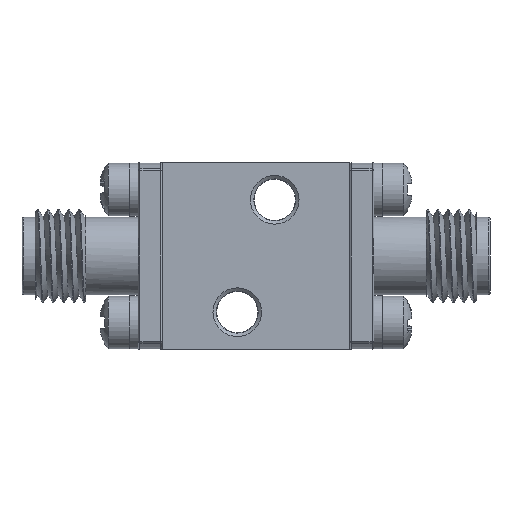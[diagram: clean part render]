
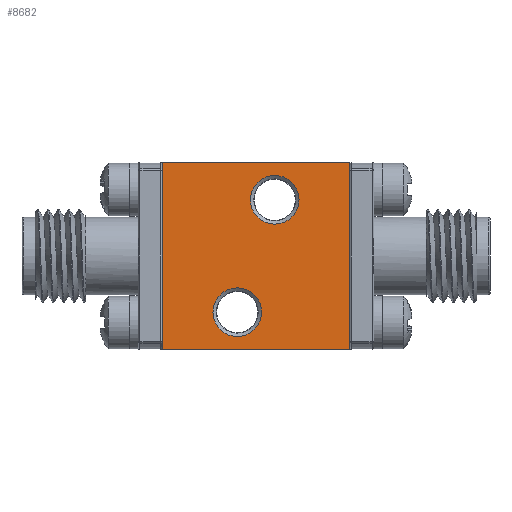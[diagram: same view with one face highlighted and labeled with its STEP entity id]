
A CAD part, front view. The second image highlights one B-rep face of the part: STEP entity #8682.
In plain terms, the highlighted planar face has unit normal (0, -1, 0).
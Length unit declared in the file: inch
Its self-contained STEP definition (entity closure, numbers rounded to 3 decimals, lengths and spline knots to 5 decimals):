
#205 = CIRCLE ( 'NONE', #19600, 0.065 ) ;
#220 = CARTESIAN_POINT ( 'NONE',  ( 0.2, 0., -0.4 ) ) ;
#575 = LINE ( 'NONE', #11801, #36376 ) ;
#802 = CARTESIAN_POINT ( 'NONE',  ( 0.2, 0., -0.335 ) ) ;
#996 = LINE ( 'NONE', #4113, #13548 ) ;
#1357 = FACE_BOUND ( 'NONE', #6100, .T. ) ;
#1361 = CIRCLE ( 'NONE', #2540, 0.065 ) ;
#1362 = LINE ( 'NONE', #9446, #14243 ) ;
#2540 = AXIS2_PLACEMENT_3D ( 'NONE', #24207, #15564, #4125 ) ;
#2912 = CARTESIAN_POINT ( 'NONE',  ( 0., 0., 0. ) ) ;
#4113 = CARTESIAN_POINT ( 'NONE',  ( 0.5, 0., 0. ) ) ;
#4125 = DIRECTION ( 'NONE',  ( 0., 0., 1. ) ) ;
#4752 = ORIENTED_EDGE ( 'NONE', *, *, #20915, .F. ) ;
#6100 = EDGE_LOOP ( 'NONE', ( #15503 ) ) ;
#7159 = EDGE_LOOP ( 'NONE', ( #18719 ) ) ;
#8593 = EDGE_CURVE ( 'NONE', #27915, #34282, #996, .T. ) ;
#8682 = ADVANCED_FACE ( 'NONE', ( #1357, #35065, #9828 ), #21069, .T. ) ;
#9446 = CARTESIAN_POINT ( 'NONE',  ( 0., 0., 0. ) ) ;
#9828 = FACE_OUTER_BOUND ( 'NONE', #15150, .T. ) ;
#11197 = ORIENTED_EDGE ( 'NONE', *, *, #26148, .F. ) ;
#11801 = CARTESIAN_POINT ( 'NONE',  ( 0., 0., 0. ) ) ;
#12097 = ORIENTED_EDGE ( 'NONE', *, *, #8593, .F. ) ;
#12162 = DIRECTION ( 'NONE',  ( 1., 0., 0. ) ) ;
#12410 = DIRECTION ( 'NONE',  ( 0., 0., -1. ) ) ;
#13485 = DIRECTION ( 'NONE',  ( 0., 1., 0. ) ) ;
#13548 = VECTOR ( 'NONE', #12410, 39.37008 ) ;
#13876 = CARTESIAN_POINT ( 'NONE',  ( 0.3, 0., -0.035 ) ) ;
#14243 = VECTOR ( 'NONE', #29167, 39.37008 ) ;
#15150 = EDGE_LOOP ( 'NONE', ( #20797, #11197, #12097, #4752 ) ) ;
#15503 = ORIENTED_EDGE ( 'NONE', *, *, #35453, .T. ) ;
#15564 = DIRECTION ( 'NONE',  ( 0., 1., 0. ) ) ;
#15915 = CARTESIAN_POINT ( 'NONE',  ( 0., 0., -0.5 ) ) ;
#16683 = EDGE_CURVE ( 'NONE', #19693, #21914, #1362, .T. ) ;
#17204 = CARTESIAN_POINT ( 'NONE',  ( 0., 0., -0.5 ) ) ;
#18719 = ORIENTED_EDGE ( 'NONE', *, *, #26133, .T. ) ;
#19600 = AXIS2_PLACEMENT_3D ( 'NONE', #220, #13485, #36145 ) ;
#19693 = VERTEX_POINT ( 'NONE', #17204 ) ;
#20797 = ORIENTED_EDGE ( 'NONE', *, *, #16683, .F. ) ;
#20915 = EDGE_CURVE ( 'NONE', #21914, #27915, #575, .T. ) ;
#21069 = PLANE ( 'NONE',  #34218 ) ;
#21454 = DIRECTION ( 'NONE',  ( -1., 0., 0. ) ) ;
#21914 = VERTEX_POINT ( 'NONE', #35197 ) ;
#21970 = VECTOR ( 'NONE', #21454, 39.37008 ) ;
#24207 = CARTESIAN_POINT ( 'NONE',  ( 0.3, 0., -0.1 ) ) ;
#24965 = CARTESIAN_POINT ( 'NONE',  ( 0.5, 0., 0. ) ) ;
#26133 = EDGE_CURVE ( 'NONE', #27881, #27881, #1361, .T. ) ;
#26148 = EDGE_CURVE ( 'NONE', #34282, #19693, #27118, .T. ) ;
#26445 = CARTESIAN_POINT ( 'NONE',  ( 0.5, 0., -0.5 ) ) ;
#26727 = VERTEX_POINT ( 'NONE', #802 ) ;
#27118 = LINE ( 'NONE', #15915, #21970 ) ;
#27881 = VERTEX_POINT ( 'NONE', #13876 ) ;
#27915 = VERTEX_POINT ( 'NONE', #24965 ) ;
#29167 = DIRECTION ( 'NONE',  ( 0., 0., 1. ) ) ;
#30398 = DIRECTION ( 'NONE',  ( 0., -1., 0. ) ) ;
#30566 = DIRECTION ( 'NONE',  ( 0., 0., -1. ) ) ;
#34218 = AXIS2_PLACEMENT_3D ( 'NONE', #2912, #30398, #30566 ) ;
#34282 = VERTEX_POINT ( 'NONE', #26445 ) ;
#35065 = FACE_BOUND ( 'NONE', #7159, .T. ) ;
#35197 = CARTESIAN_POINT ( 'NONE',  ( 0., 0., 0. ) ) ;
#35453 = EDGE_CURVE ( 'NONE', #26727, #26727, #205, .T. ) ;
#36145 = DIRECTION ( 'NONE',  ( 0., 0., 1. ) ) ;
#36376 = VECTOR ( 'NONE', #12162, 39.37008 ) ;
